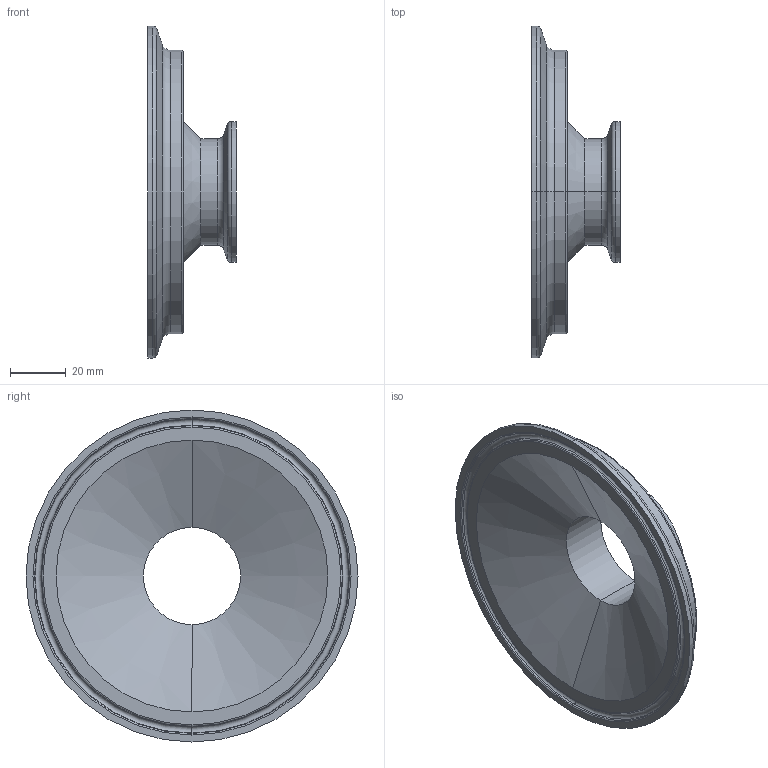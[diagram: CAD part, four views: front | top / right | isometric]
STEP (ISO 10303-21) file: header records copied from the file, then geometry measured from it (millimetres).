
FILE_DESCRIPTION (( 'STEP AP203' ), '1' );
FILE_NAME ('TEG31I6L4.0X1.5.STEP', '2021-10-14T18:07:19', ( '' ), ( '' ), 'SwSTEP 2.0', 'SolidWorks 2021', '' );
FILE_SCHEMA (( 'CONFIG_CONTROL_DESIGN' ));
Length unit declared in the file: inch
Products named in the file (1): TEG31I6L4.0X1.5
Bounding box: 31.75 x 118.92 x 118.92 mm (x, y, z)
Volume: 73136.3 mm3; surface area: 30071.6 mm2
Topology: 1 solids, 1 shells, 49 faces, 98 edges, 54 vertices
Faces by surface type: torus 18, cone 16, cylinder 10, plane 5
Entity records: 1355 total; most frequent: DIRECTION 270, CARTESIAN_POINT 202, ORIENTED_EDGE 196, AXIS2_PLACEMENT_3D 122, EDGE_CURVE 98, CIRCLE 72, EDGE_LOOP 54, VERTEX_POINT 54
